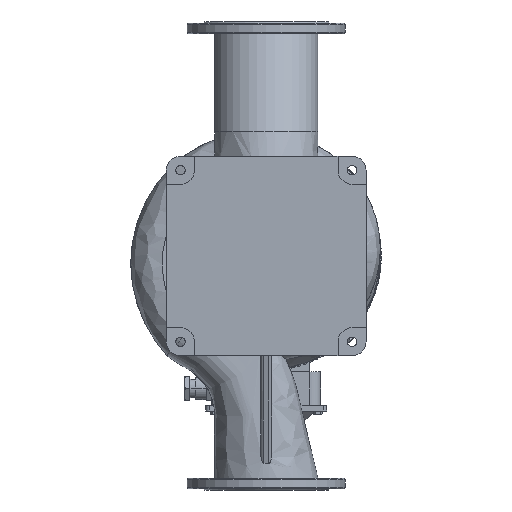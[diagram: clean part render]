
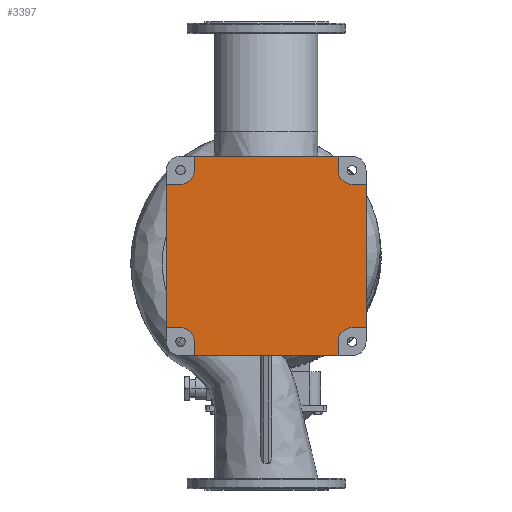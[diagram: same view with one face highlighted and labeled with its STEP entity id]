
A CAD part, front view. The second image highlights one B-rep face of the part: STEP entity #3397.
In plain terms, the highlighted planar face has unit normal (0, -1, 0).
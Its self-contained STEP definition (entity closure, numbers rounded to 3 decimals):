
#592 = EDGE_CURVE ( 'NONE', #50307, #49770, #60841, .T. ) ;
#723 = CIRCLE ( 'NONE', #74155, 36. ) ;
#784 = VECTOR ( 'NONE', #2563, 1000. ) ;
#2563 = DIRECTION ( 'NONE',  ( 1., 0., 0. ) ) ;
#3397 = ADVANCED_FACE ( 'NONE', ( #19625 ), #53833, .F. ) ;
#4442 = CARTESIAN_POINT ( 'NONE',  ( 184., -300., -256. ) ) ;
#5092 = DIRECTION ( 'NONE',  ( 0., 1., 0. ) ) ;
#5115 = LINE ( 'NONE', #86185, #52896 ) ;
#6168 = LINE ( 'NONE', #33608, #76840 ) ;
#7288 = AXIS2_PLACEMENT_3D ( 'NONE', #39443, #73716, #80013 ) ;
#7612 = VERTEX_POINT ( 'NONE', #74437 ) ;
#8214 = EDGE_CURVE ( 'NONE', #71575, #58374, #34630, .T. ) ;
#9610 = LINE ( 'NONE', #23117, #35764 ) ;
#10619 = EDGE_CURVE ( 'NONE', #58094, #23171, #56793, .T. ) ;
#10722 = AXIS2_PLACEMENT_3D ( 'NONE', #66785, #19935, #45620 ) ;
#12102 = ORIENTED_EDGE ( 'NONE', *, *, #77907, .T. ) ;
#13215 = CARTESIAN_POINT ( 'NONE',  ( -184., -300., 220. ) ) ;
#13735 = VECTOR ( 'NONE', #81232, 1000. ) ;
#14236 = VERTEX_POINT ( 'NONE', #78945 ) ;
#14416 = VERTEX_POINT ( 'NONE', #71620 ) ;
#14585 = ORIENTED_EDGE ( 'NONE', *, *, #17589, .T. ) ;
#14622 = EDGE_CURVE ( 'NONE', #14236, #50307, #65738, .T. ) ;
#16849 = LINE ( 'NONE', #30801, #83858 ) ;
#17032 = CARTESIAN_POINT ( 'NONE',  ( -220., -300., -184. ) ) ;
#17303 = DIRECTION ( 'NONE',  ( 0., 0., 1. ) ) ;
#17589 = EDGE_CURVE ( 'NONE', #23171, #71575, #9610, .T. ) ;
#17785 = ORIENTED_EDGE ( 'NONE', *, *, #64535, .T. ) ;
#17984 = CARTESIAN_POINT ( 'NONE',  ( 184., -300., 256. ) ) ;
#18378 = LINE ( 'NONE', #4442, #38721 ) ;
#18379 = LINE ( 'NONE', #17032, #65302 ) ;
#18461 = EDGE_CURVE ( 'NONE', #26628, #66219, #18378, .T. ) ;
#19625 = FACE_OUTER_BOUND ( 'NONE', #43772, .T. ) ;
#19935 = DIRECTION ( 'NONE',  ( 0., 1., 0. ) ) ;
#20683 = CARTESIAN_POINT ( 'NONE',  ( -256., -300., -184. ) ) ;
#23117 = CARTESIAN_POINT ( 'NONE',  ( -220., -300., 184. ) ) ;
#23171 = VERTEX_POINT ( 'NONE', #37596 ) ;
#24310 = DIRECTION ( 'NONE',  ( 0., 0., 1. ) ) ;
#24483 = CARTESIAN_POINT ( 'NONE',  ( -184., -300., -256. ) ) ;
#25146 = ORIENTED_EDGE ( 'NONE', *, *, #42936, .T. ) ;
#26249 = DIRECTION ( 'NONE',  ( 0., 0., -1. ) ) ;
#26628 = VERTEX_POINT ( 'NONE', #24483 ) ;
#27296 = VERTEX_POINT ( 'NONE', #49382 ) ;
#27489 = VECTOR ( 'NONE', #33375, 1000. ) ;
#28069 = ORIENTED_EDGE ( 'NONE', *, *, #63363, .T. ) ;
#29179 = CIRCLE ( 'NONE', #79558, 36. ) ;
#29754 = DIRECTION ( 'NONE',  ( 0., 0., 1. ) ) ;
#30587 = CARTESIAN_POINT ( 'NONE',  ( 220., -300., -220. ) ) ;
#30801 = CARTESIAN_POINT ( 'NONE',  ( 184., -300., -220. ) ) ;
#32177 = ORIENTED_EDGE ( 'NONE', *, *, #35723, .T. ) ;
#33375 = DIRECTION ( 'NONE',  ( -1., 0., 0. ) ) ;
#33608 = CARTESIAN_POINT ( 'NONE',  ( -184., -300., -220. ) ) ;
#34527 = VECTOR ( 'NONE', #68228, 1000. ) ;
#34630 = LINE ( 'NONE', #20683, #53093 ) ;
#35415 = LINE ( 'NONE', #64209, #784 ) ;
#35723 = EDGE_CURVE ( 'NONE', #49770, #58094, #5115, .T. ) ;
#35764 = VECTOR ( 'NONE', #85723, 1000. ) ;
#36705 = ORIENTED_EDGE ( 'NONE', *, *, #42264, .T. ) ;
#36858 = VERTEX_POINT ( 'NONE', #86975 ) ;
#37022 = CARTESIAN_POINT ( 'NONE',  ( -184., -300., 256. ) ) ;
#37596 = CARTESIAN_POINT ( 'NONE',  ( -220., -300., 184. ) ) ;
#37733 = DIRECTION ( 'NONE',  ( 1., 0., 0. ) ) ;
#38721 = VECTOR ( 'NONE', #87293, 1000. ) ;
#39443 = CARTESIAN_POINT ( 'NONE',  ( -220., -300., -220. ) ) ;
#40214 = CARTESIAN_POINT ( 'NONE',  ( 256., -300., 184. ) ) ;
#41794 = ORIENTED_EDGE ( 'NONE', *, *, #69595, .T. ) ;
#42264 = EDGE_CURVE ( 'NONE', #68693, #79907, #35415, .T. ) ;
#42936 = EDGE_CURVE ( 'NONE', #79907, #14416, #59598, .T. ) ;
#43772 = EDGE_LOOP ( 'NONE', ( #17785, #28069, #71652, #61833, #55602, #36705, #25146, #41794, #67747, #70049, #85284, #32177, #48069, #14585, #72847, #12102 ) ) ;
#45620 = DIRECTION ( 'NONE',  ( 0., 0., 1. ) ) ;
#46486 = CARTESIAN_POINT ( 'NONE',  ( -220., -300., 220. ) ) ;
#47059 = CARTESIAN_POINT ( 'NONE',  ( 220., -300., 184. ) ) ;
#48069 = ORIENTED_EDGE ( 'NONE', *, *, #10619, .T. ) ;
#49382 = CARTESIAN_POINT ( 'NONE',  ( -220., -300., -184. ) ) ;
#49770 = VERTEX_POINT ( 'NONE', #37022 ) ;
#50307 = VERTEX_POINT ( 'NONE', #17984 ) ;
#50460 = CARTESIAN_POINT ( 'NONE',  ( -220., -300., -220. ) ) ;
#52896 = VECTOR ( 'NONE', #26249, 1000. ) ;
#53093 = VECTOR ( 'NONE', #76967, 1000. ) ;
#53833 = PLANE ( 'NONE',  #7288 ) ;
#54556 = CARTESIAN_POINT ( 'NONE',  ( -256., -300., -184. ) ) ;
#55602 = ORIENTED_EDGE ( 'NONE', *, *, #61870, .T. ) ;
#56793 = CIRCLE ( 'NONE', #84133, 36. ) ;
#58094 = VERTEX_POINT ( 'NONE', #13215 ) ;
#58374 = VERTEX_POINT ( 'NONE', #54556 ) ;
#59435 = CARTESIAN_POINT ( 'NONE',  ( 184., -300., 220. ) ) ;
#59598 = LINE ( 'NONE', #40214, #13735 ) ;
#60841 = LINE ( 'NONE', #82889, #27489 ) ;
#61660 = EDGE_CURVE ( 'NONE', #66219, #36858, #16849, .T. ) ;
#61833 = ORIENTED_EDGE ( 'NONE', *, *, #61660, .T. ) ;
#61870 = EDGE_CURVE ( 'NONE', #36858, #68693, #29179, .T. ) ;
#63363 = EDGE_CURVE ( 'NONE', #75614, #26628, #6168, .T. ) ;
#63488 = DIRECTION ( 'NONE',  ( 0., 0., 1. ) ) ;
#64209 = CARTESIAN_POINT ( 'NONE',  ( 220., -300., -184. ) ) ;
#64535 = EDGE_CURVE ( 'NONE', #27296, #75614, #723, .T. ) ;
#64840 = CARTESIAN_POINT ( 'NONE',  ( -184., -300., -220. ) ) ;
#65302 = VECTOR ( 'NONE', #37733, 1000. ) ;
#65738 = LINE ( 'NONE', #59435, #69316 ) ;
#66115 = CARTESIAN_POINT ( 'NONE',  ( 184., -300., -256. ) ) ;
#66219 = VERTEX_POINT ( 'NONE', #66115 ) ;
#66785 = CARTESIAN_POINT ( 'NONE',  ( 220., -300., 220. ) ) ;
#67202 = DIRECTION ( 'NONE',  ( 0., 0., 1. ) ) ;
#67747 = ORIENTED_EDGE ( 'NONE', *, *, #78580, .T. ) ;
#68228 = DIRECTION ( 'NONE',  ( -1., 0., 0. ) ) ;
#68693 = VERTEX_POINT ( 'NONE', #84849 ) ;
#69316 = VECTOR ( 'NONE', #24310, 1000. ) ;
#69595 = EDGE_CURVE ( 'NONE', #14416, #7612, #80895, .T. ) ;
#69671 = CIRCLE ( 'NONE', #10722, 36. ) ;
#70049 = ORIENTED_EDGE ( 'NONE', *, *, #14622, .T. ) ;
#70705 = DIRECTION ( 'NONE',  ( 0., 1., 0. ) ) ;
#71575 = VERTEX_POINT ( 'NONE', #77547 ) ;
#71620 = CARTESIAN_POINT ( 'NONE',  ( 256., -300., 184. ) ) ;
#71652 = ORIENTED_EDGE ( 'NONE', *, *, #18461, .T. ) ;
#72847 = ORIENTED_EDGE ( 'NONE', *, *, #8214, .T. ) ;
#73716 = DIRECTION ( 'NONE',  ( 0., 1., 0. ) ) ;
#74155 = AXIS2_PLACEMENT_3D ( 'NONE', #50460, #78411, #29754 ) ;
#74437 = CARTESIAN_POINT ( 'NONE',  ( 220., -300., 184. ) ) ;
#75614 = VERTEX_POINT ( 'NONE', #64840 ) ;
#76840 = VECTOR ( 'NONE', #88576, 1000. ) ;
#76967 = DIRECTION ( 'NONE',  ( 0., 0., -1. ) ) ;
#77547 = CARTESIAN_POINT ( 'NONE',  ( -256., -300., 184. ) ) ;
#77907 = EDGE_CURVE ( 'NONE', #58374, #27296, #18379, .T. ) ;
#78411 = DIRECTION ( 'NONE',  ( 0., 1., 0. ) ) ;
#78580 = EDGE_CURVE ( 'NONE', #7612, #14236, #69671, .T. ) ;
#78945 = CARTESIAN_POINT ( 'NONE',  ( 184., -300., 220. ) ) ;
#79558 = AXIS2_PLACEMENT_3D ( 'NONE', #30587, #70705, #63488 ) ;
#79907 = VERTEX_POINT ( 'NONE', #82557 ) ;
#80013 = DIRECTION ( 'NONE',  ( 1., 0., 0. ) ) ;
#80895 = LINE ( 'NONE', #47059, #34527 ) ;
#81232 = DIRECTION ( 'NONE',  ( 0., 0., 1. ) ) ;
#82557 = CARTESIAN_POINT ( 'NONE',  ( 256., -300., -184. ) ) ;
#82889 = CARTESIAN_POINT ( 'NONE',  ( -184., -300., 256. ) ) ;
#83858 = VECTOR ( 'NONE', #17303, 1000. ) ;
#84133 = AXIS2_PLACEMENT_3D ( 'NONE', #46486, #5092, #67202 ) ;
#84849 = CARTESIAN_POINT ( 'NONE',  ( 220., -300., -184. ) ) ;
#85284 = ORIENTED_EDGE ( 'NONE', *, *, #592, .T. ) ;
#85723 = DIRECTION ( 'NONE',  ( -1., 0., 0. ) ) ;
#86185 = CARTESIAN_POINT ( 'NONE',  ( -184., -300., 220. ) ) ;
#86975 = CARTESIAN_POINT ( 'NONE',  ( 184., -300., -220. ) ) ;
#87293 = DIRECTION ( 'NONE',  ( 1., 0., 0. ) ) ;
#88576 = DIRECTION ( 'NONE',  ( 0., 0., -1. ) ) ;
